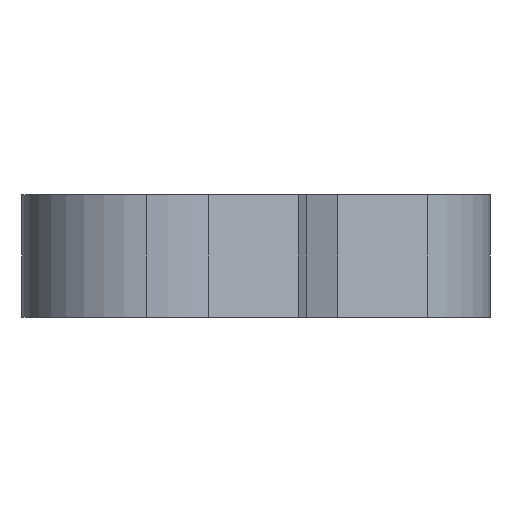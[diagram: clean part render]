
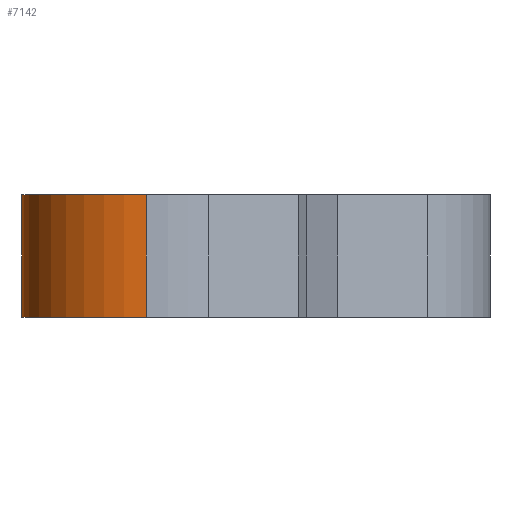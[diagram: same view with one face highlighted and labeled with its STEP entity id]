
A CAD part, left-side view. The second image highlights one B-rep face of the part: STEP entity #7142.
In plain terms, the highlighted cylindrical face has radius 6.2 mm (diameter 12.4 mm), a partial arc.
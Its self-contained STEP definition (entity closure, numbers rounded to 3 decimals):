
#141 = EDGE_CURVE ( 'NONE', #7745, #6406, #4387, .T. ) ;
#405 = DIRECTION ( 'NONE',  ( 1., 0., 0. ) ) ;
#416 = AXIS2_PLACEMENT_3D ( 'NONE', #8625, #8011, #405 ) ;
#455 = ORIENTED_EDGE ( 'NONE', *, *, #2841, .F. ) ;
#666 = EDGE_CURVE ( 'NONE', #5202, #7745, #2325, .T. ) ;
#835 = EDGE_LOOP ( 'NONE', ( #4488, #455, #10048, #5215 ) ) ;
#990 = CARTESIAN_POINT ( 'NONE',  ( -12.55, 10.999, -3.05 ) ) ;
#1960 = DIRECTION ( 'NONE',  ( 0., 0., -1. ) ) ;
#2325 = LINE ( 'NONE', #6588, #9020 ) ;
#2592 = CYLINDRICAL_SURFACE ( 'NONE', #4748, 6.2 ) ;
#2689 = VECTOR ( 'NONE', #1960, 1000. ) ;
#2769 = CARTESIAN_POINT ( 'NONE',  ( -6.35, 10.999, 3.05 ) ) ;
#2841 = EDGE_CURVE ( 'NONE', #5202, #8551, #8088, .T. ) ;
#3242 = FACE_OUTER_BOUND ( 'NONE', #835, .T. ) ;
#3755 = CARTESIAN_POINT ( 'NONE',  ( -12.55, 10.999, 1. ) ) ;
#4387 = CIRCLE ( 'NONE', #416, 6.2 ) ;
#4391 = DIRECTION ( 'NONE',  ( 0., 0., 1. ) ) ;
#4488 = ORIENTED_EDGE ( 'NONE', *, *, #4593, .F. ) ;
#4593 = EDGE_CURVE ( 'NONE', #8551, #6406, #8038, .T. ) ;
#4654 = AXIS2_PLACEMENT_3D ( 'NONE', #2769, #4391, #9480 ) ;
#4748 = AXIS2_PLACEMENT_3D ( 'NONE', #8361, #6533, #9021 ) ;
#5202 = VERTEX_POINT ( 'NONE', #9003 ) ;
#5215 = ORIENTED_EDGE ( 'NONE', *, *, #141, .T. ) ;
#6406 = VERTEX_POINT ( 'NONE', #990 ) ;
#6533 = DIRECTION ( 'NONE',  ( 0., 0., -1. ) ) ;
#6588 = CARTESIAN_POINT ( 'NONE',  ( -0.981, 14.099, 1. ) ) ;
#7142 = ADVANCED_FACE ( 'NONE', ( #3242 ), #2592, .T. ) ;
#7745 = VERTEX_POINT ( 'NONE', #9541 ) ;
#8011 = DIRECTION ( 'NONE',  ( 0., 0., 1. ) ) ;
#8038 = LINE ( 'NONE', #3755, #2689 ) ;
#8088 = CIRCLE ( 'NONE', #4654, 6.2 ) ;
#8361 = CARTESIAN_POINT ( 'NONE',  ( -6.35, 10.999, 1. ) ) ;
#8551 = VERTEX_POINT ( 'NONE', #10105 ) ;
#8625 = CARTESIAN_POINT ( 'NONE',  ( -6.35, 10.999, -3.05 ) ) ;
#9003 = CARTESIAN_POINT ( 'NONE',  ( -0.981, 14.099, 3.05 ) ) ;
#9020 = VECTOR ( 'NONE', #10606, 1000. ) ;
#9021 = DIRECTION ( 'NONE',  ( -1., 0., 0. ) ) ;
#9480 = DIRECTION ( 'NONE',  ( 1., 0., 0. ) ) ;
#9541 = CARTESIAN_POINT ( 'NONE',  ( -0.981, 14.099, -3.05 ) ) ;
#10048 = ORIENTED_EDGE ( 'NONE', *, *, #666, .T. ) ;
#10105 = CARTESIAN_POINT ( 'NONE',  ( -12.55, 10.999, 3.05 ) ) ;
#10606 = DIRECTION ( 'NONE',  ( 0., 0., -1. ) ) ;
